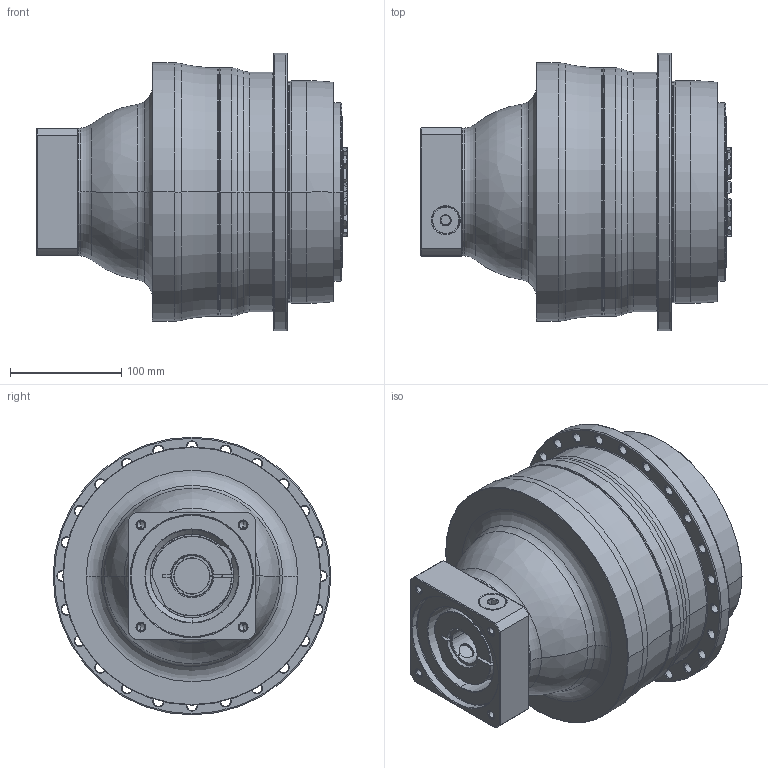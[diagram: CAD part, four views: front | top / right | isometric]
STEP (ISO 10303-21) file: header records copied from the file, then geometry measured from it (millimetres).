
FILE_DESCRIPTION((''),'2;1');
FILE_NAME('APC200_3ST_32-P0409710201_ASM','2018-07-05T',('d01226'),(''),'PRO/ENGINEER BY PARAMETRIC TECHNOLOGY CORPORATION, 2008410','PRO/ENGINEER BY PARAMETRIC TECHNOLOGY CORPORATION, 2008410','');
FILE_SCHEMA(('CONFIG_CONTROL_DESIGN'));
Length unit declared in the file: millimetre
Products named in the file (9): P0278601003; P0359660103; P1366600301; P0503700010; P0912403001; P1211600001; P0409710201; 21711418017; APC200_3ST_32-P0409710201_ASM
Assembly tree (8 placements, depth 2):
  APC200_3ST_32-P0409710201_ASM
    P0278601003
    P0359660103
    P1366600301
    P0503700010
    P0912403001
    P1211600001
    P0409710201
    21711418017
Bounding box: 279.1 x 249.5 x 249.5 mm (x, y, z)
Volume: 7720975.4 mm3; surface area: 534175.2 mm2
Topology: 9 solids, 19 shells, 670 faces, 1611 edges, 979 vertices
Faces by surface type: cone 221, cylinder 207, plane 119, torus 107, bspline 16
Entity records: 24859 total; most frequent: CARTESIAN_POINT 8830, DIRECTION 3595, ORIENTED_EDGE 3144, EDGE_CURVE 1593, AXIS2_PLACEMENT_3D 1562, VERTEX_POINT 979, CIRCLE 881, EDGE_LOOP 770
